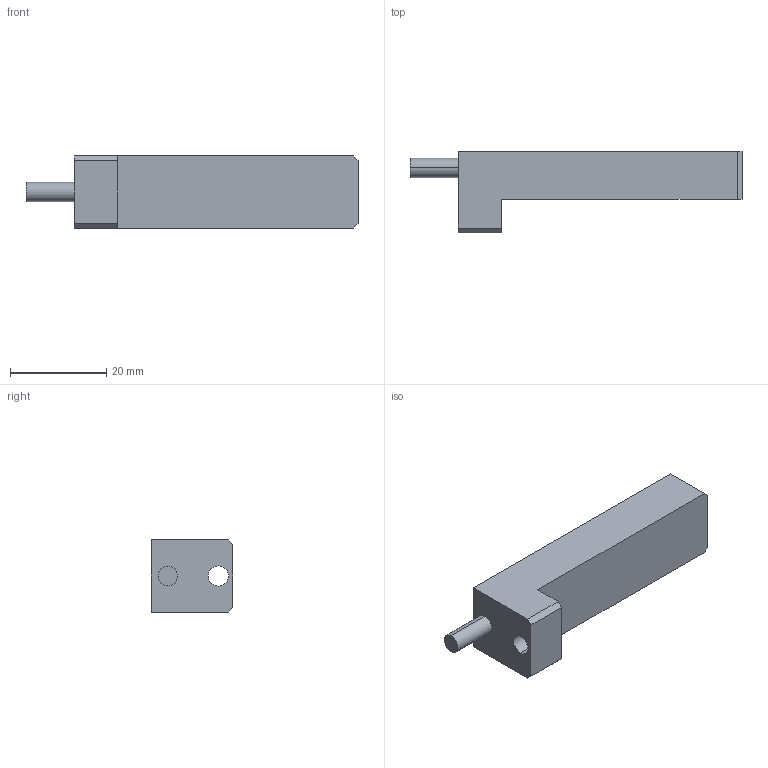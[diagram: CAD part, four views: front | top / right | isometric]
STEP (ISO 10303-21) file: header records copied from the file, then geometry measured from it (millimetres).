
FILE_DESCRIPTION (( 'STEP AP203' ), '1' );
FILE_NAME ('TR5006-W.STEP', '2021-10-13T08:06:09', ( 'Windows 蚚誧' ), ( 'Microsoft' ), 'SwSTEP 2.0', 'SolidWorks 2016', '' );
FILE_SCHEMA (( 'CONFIG_CONTROL_DESIGN' ));
Length unit declared in the file: millimetre
Products named in the file (1): TR5006-W
Bounding box: 69 x 17 x 15 mm (x, y, z)
Volume: 7916.6 mm3; surface area: 5328 mm2
Topology: 1 solids, 1 shells, 116 faces, 282 edges, 188 vertices
Faces by surface type: plane 112, cylinder 4
Entity records: 3415 total; most frequent: CARTESIAN_POINT 587, ORIENTED_EDGE 564, DIRECTION 524, EDGE_CURVE 282, LINE 274, VECTOR 274, VERTEX_POINT 188, EDGE_LOOP 138
